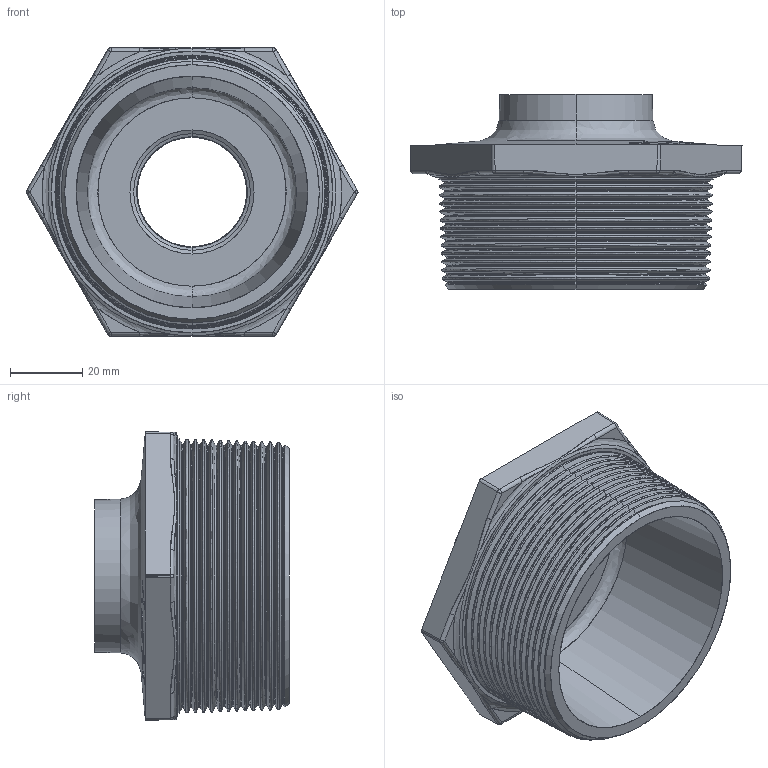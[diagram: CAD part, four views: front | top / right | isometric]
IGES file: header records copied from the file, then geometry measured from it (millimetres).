
Start section: SolidWorks IGES file using analytic representation for surfaces
Global section: file name: C:\Users\Joel Rosa\Desktop\Tubulação\12-01-OK\12-01-048.IGS; native system: SolidWorks 2011; preprocessor: SolidWorks 2011; author: Joel Rosa; date: 121203.202243; units: millimetre
Bounding box: 92.07 x 54 x 80 mm (x, y, z)
Surface area: 33538.7 mm2 (no closed solid volume)
Topology: 0 solids, 0 shells, 416 faces, 3970 edges, 3970 vertices
Faces by surface type: bspline 279, revolution 137
